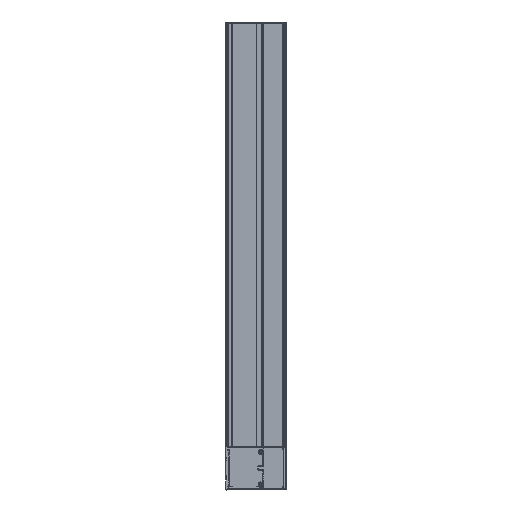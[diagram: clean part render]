
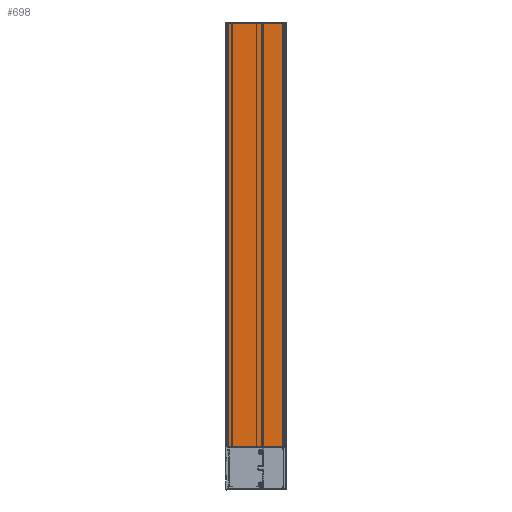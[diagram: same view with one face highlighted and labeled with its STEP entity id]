
A CAD part, left-side view. The second image highlights one B-rep face of the part: STEP entity #698.
In plain terms, the highlighted planar face has unit normal (-1, 0, 0).
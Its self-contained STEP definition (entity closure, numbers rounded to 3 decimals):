
#698=ADVANCED_FACE('',(#2609),#2611,.T.);
#2609=FACE_BOUND('',#2610,.T.);
#2610=EDGE_LOOP('',(#7773,#7774,#7775,#7776));
#2611=PLANE('',#2612);
#2612=AXIS2_PLACEMENT_3D('',#2613,#2614,#2615);
#2613=CARTESIAN_POINT('',(-25.,4.,-255.5));
#2614=DIRECTION('',(-1.,0.,0.));
#2615=DIRECTION('',(0.,-1.,0.));
#7773=ORIENTED_EDGE('',*,*,#11075,.T.);
#7774=ORIENTED_EDGE('',*,*,#11202,.T.);
#7775=ORIENTED_EDGE('',*,*,#10950,.F.);
#7776=ORIENTED_EDGE('',*,*,#11271,.F.);
#10950=EDGE_CURVE('',#13174,#12905,#13176,.T.);
#11075=EDGE_CURVE('',#13422,#13420,#13423,.F.);
#11202=EDGE_CURVE('',#13420,#12905,#13582,.T.);
#11271=EDGE_CURVE('',#13422,#13174,#13655,.T.);
#12905=VERTEX_POINT('',#16498);
#13174=VERTEX_POINT('',#17118);
#13176=LINE('',#17123,#17124);
#13420=VERTEX_POINT('',#17693);
#13422=VERTEX_POINT('',#17698);
#13423=LINE('',#17699,#17700);
#13582=LINE('',#18153,#18154);
#13655=LINE('',#18393,#18394);
#16498=CARTESIAN_POINT('',(-25.,-63.75,255.5));
#17118=CARTESIAN_POINT('',(-25.,4.,255.5));
#17123=CARTESIAN_POINT('',(-25.,4.,255.5));
#17124=VECTOR('',#17125,1.);
#17125=DIRECTION('',(0.,-1.,0.));
#17693=CARTESIAN_POINT('',(-25.,-63.75,-230.5));
#17698=CARTESIAN_POINT('',(-25.,4.,-230.5));
#17699=CARTESIAN_POINT('',(-25.,-63.75,-230.5));
#17700=VECTOR('',#17701,1.);
#17701=DIRECTION('',(0.,1.,0.));
#18153=CARTESIAN_POINT('',(-25.,-63.75,-230.5));
#18154=VECTOR('',#18155,1.);
#18155=DIRECTION('',(0.,0.,1.));
#18393=CARTESIAN_POINT('',(-25.,4.,-230.5));
#18394=VECTOR('',#18395,1.);
#18395=DIRECTION('',(0.,0.,1.));
